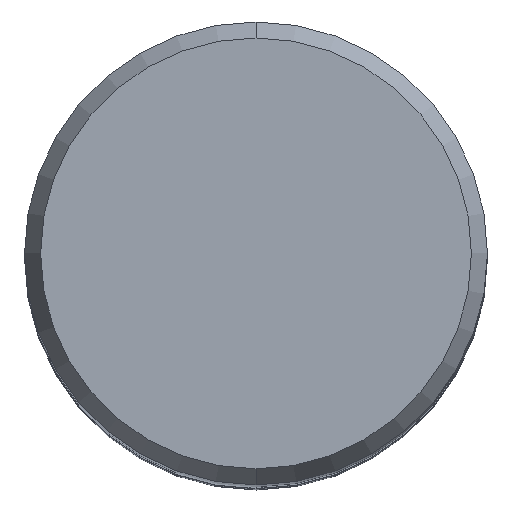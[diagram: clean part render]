
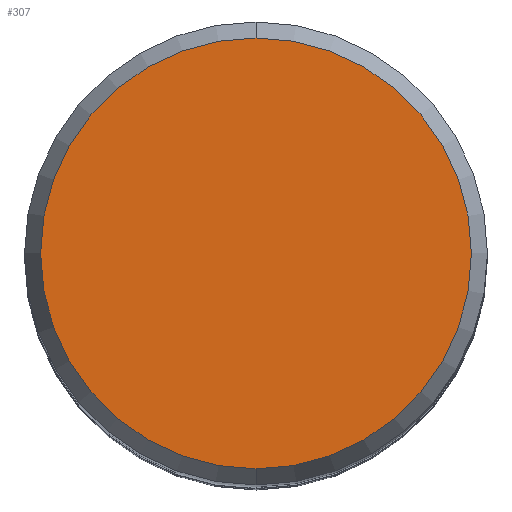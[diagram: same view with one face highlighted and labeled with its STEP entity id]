
A CAD part, top view. The second image highlights one B-rep face of the part: STEP entity #307.
In plain terms, the highlighted planar face has unit normal (0, 0, 1).
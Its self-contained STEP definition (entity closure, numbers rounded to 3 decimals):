
#307=ADVANCED_FACE('',(#720),#721,.T.);
#319=EDGE_CURVE('',#483,#383,#735,.T.);
#355=EDGE_CURVE('',#383,#483,#776,.T.);
#383=VERTEX_POINT('',#808);
#483=VERTEX_POINT('',#920);
#720=FACE_OUTER_BOUND('',#1334,.T.);
#721=PLANE('',#1335);
#735=CIRCLE('',#1351,9.307);
#776=CIRCLE('',#1418,9.307);
#808=CARTESIAN_POINT('',(0.,-9.307,0.0));
#920=CARTESIAN_POINT('',(0.0,9.307,0.0));
#1334=EDGE_LOOP('',(#2102,#2103));
#1335=AXIS2_PLACEMENT_3D('',#2104,#2105,#2106);
#1351=AXIS2_PLACEMENT_3D('',#2118,#2119,#2120);
#1418=AXIS2_PLACEMENT_3D('',#2166,#2167,#2168);
#2102=ORIENTED_EDGE('',*,*,#319,.F.);
#2103=ORIENTED_EDGE('',*,*,#355,.F.);
#2104=CARTESIAN_POINT('',(0.0,4.654,0.0));
#2105=DIRECTION('',(-0.0,0.0,1.0));
#2106=DIRECTION('',(0.0,-1.0,0.0));
#2118=CARTESIAN_POINT('',(0.0,0.0,0.0));
#2119=DIRECTION('',(0.0,0.0,-1.0));
#2120=DIRECTION('',(0.0,1.0,0.0));
#2166=CARTESIAN_POINT('',(0.0,0.0,0.0));
#2167=DIRECTION('',(0.0,0.0,-1.0));
#2168=DIRECTION('',(0.0,1.0,0.0));
